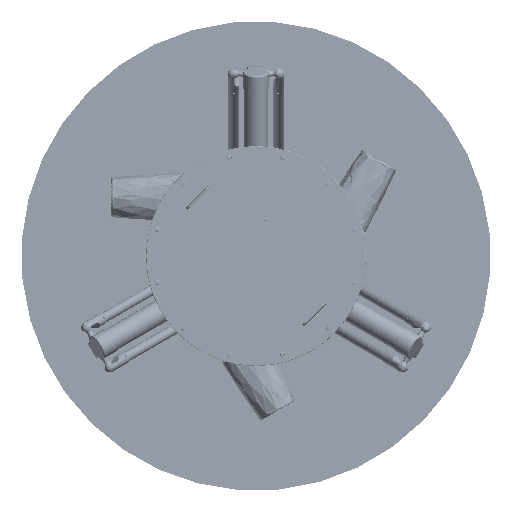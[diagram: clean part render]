
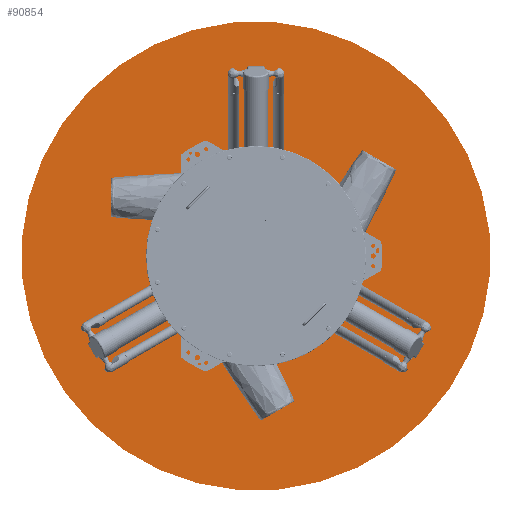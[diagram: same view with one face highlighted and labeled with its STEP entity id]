
A CAD part, front view. The second image highlights one B-rep face of the part: STEP entity #90854.
In plain terms, the highlighted planar face has unit normal (0, -1, 0) as drawn and (0, 1, 0) by its records, which use the part's own axes.
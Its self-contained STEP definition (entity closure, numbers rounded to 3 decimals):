
#15536 = EDGE_CURVE ( 'NONE', #146415, #146415, #169117, .T. ) ;
#18034 = AXIS2_PLACEMENT_3D ( 'NONE', #228814, #74827, #71490 ) ;
#71490 = DIRECTION ( 'NONE',  ( 0., 0., -1. ) ) ;
#74827 = DIRECTION ( 'NONE',  ( 0., -1., 0. ) ) ;
#90854 = ADVANCED_FACE ( 'NONE', ( #296769 ), #131556, .F. ) ;
#109835 = DIRECTION ( 'NONE',  ( 0., -1., 0. ) ) ;
#131556 = PLANE ( 'NONE',  #330672 ) ;
#146415 = VERTEX_POINT ( 'NONE', #322253 ) ;
#157835 = CARTESIAN_POINT ( 'NONE',  ( 0., 350., 0. ) ) ;
#169117 = CIRCLE ( 'NONE', #18034, 800. ) ;
#228814 = CARTESIAN_POINT ( 'NONE',  ( 0., 350., 0. ) ) ;
#293330 = DIRECTION ( 'NONE',  ( 0., 0., -1. ) ) ;
#296769 = FACE_OUTER_BOUND ( 'NONE', #315638, .T. ) ;
#305065 = ORIENTED_EDGE ( 'NONE', *, *, #15536, .F. ) ;
#315638 = EDGE_LOOP ( 'NONE', ( #305065 ) ) ;
#322253 = CARTESIAN_POINT ( 'NONE',  ( 0., 350., -800. ) ) ;
#330672 = AXIS2_PLACEMENT_3D ( 'NONE', #157835, #109835, #293330 ) ;
